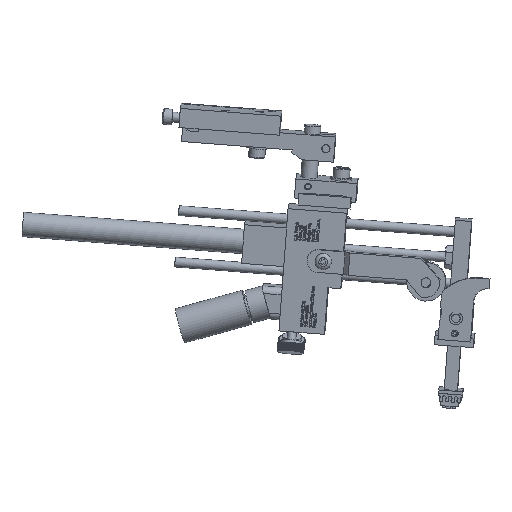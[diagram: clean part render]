
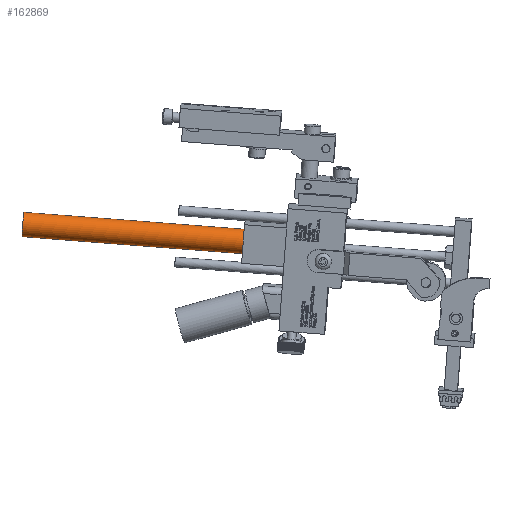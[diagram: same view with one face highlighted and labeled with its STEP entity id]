
A CAD part, top view. The second image highlights one B-rep face of the part: STEP entity #162869.
In plain terms, the highlighted cylindrical face has radius 5.969 mm (diameter 11.938 mm), a full revolution.
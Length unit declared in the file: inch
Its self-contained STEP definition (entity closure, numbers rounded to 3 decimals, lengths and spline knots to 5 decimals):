
#162547=CARTESIAN_POINT('',(-5.80054,-1.95684,0.97916));
#162548=VERTEX_POINT('',#162547);
#162549=CARTESIAN_POINT('',(-5.79427,-1.92519,0.74638));
#162550=DIRECTION('',(0.997,-0.077,0.016));
#162551=DIRECTION('',(0.027,0.135,-0.991));
#162552=AXIS2_PLACEMENT_3D('',#162549,#162550,#162551);
#162553=CIRCLE('',#162552,0.235);
#162554=EDGE_CURVE('',#162548,#162548,#162553,.T.);
#162835=CARTESIAN_POINT('',(-10.03746,-1.63105,0.90931));
#162836=VERTEX_POINT('',#162835);
#162837=CARTESIAN_POINT('',(-10.03119,-1.5994,0.67653));
#162838=DIRECTION('',(0.997,-0.077,0.016));
#162839=DIRECTION('',(0.027,0.135,-0.991));
#162840=AXIS2_PLACEMENT_3D('',#162837,#162838,#162839);
#162841=CIRCLE('',#162840,0.235);
#162842=EDGE_CURVE('',#162836,#162836,#162841,.T.);
#162858=CARTESIAN_POINT('',(-5.79427,-1.92519,0.74638));
#162859=DIRECTION('',(-0.997,0.077,-0.016));
#162860=DIRECTION('',(0.027,0.135,-0.991));
#162861=AXIS2_PLACEMENT_3D('',#162858,#162859,#162860);
#162862=CYLINDRICAL_SURFACE('',#162861,0.235);
#162863=ORIENTED_EDGE('',*,*,#162842,.T.);
#162864=EDGE_LOOP('',(#162863));
#162865=FACE_OUTER_BOUND('',#162864,.T.);
#162866=ORIENTED_EDGE('',*,*,#162554,.F.);
#162867=EDGE_LOOP('',(#162866));
#162868=FACE_BOUND('',#162867,.T.);
#162869=ADVANCED_FACE('',(#162865,#162868),#162862,.T.);
